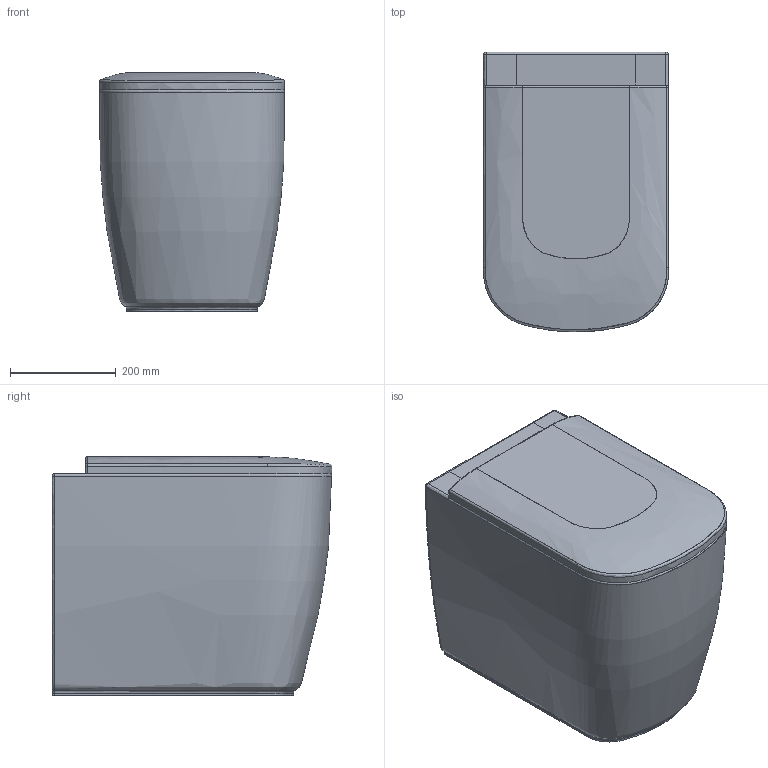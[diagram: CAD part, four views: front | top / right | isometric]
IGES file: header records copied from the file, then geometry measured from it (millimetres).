
Global section: file name: C:\Users\FULVIO\Desktop\Archivio Nic\Semplice\Vaso Terra\Modello 3D\WcSempliceTerra.igs; native system: Rhinoceros ( Mar  6 2018 ); preprocessor: Trout Lake IGES 012 Mar  6 2018; date: 191216.105438; units: centimetre
Bounding box: 350.31 x 529.95 x 452 mm (x, y, z)
Surface area: 932863.3 mm2 (no closed solid volume)
Topology: 0 solids, 0 shells, 33 faces, 565 edges, 565 vertices
Faces by surface type: bspline 33
